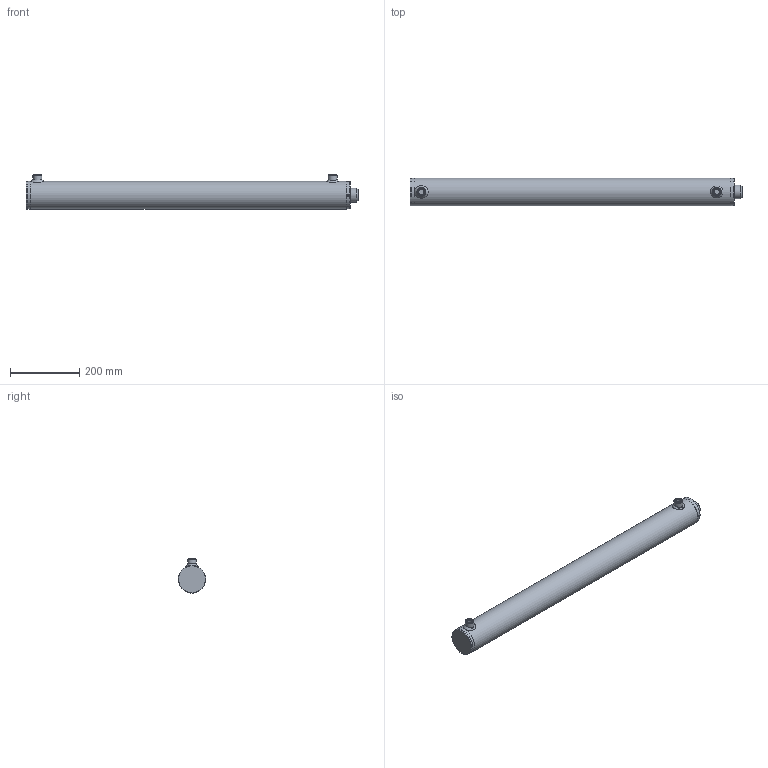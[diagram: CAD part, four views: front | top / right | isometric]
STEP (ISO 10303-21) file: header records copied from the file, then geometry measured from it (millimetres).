
FILE_DESCRIPTION( ( 'Unknown' ), '1' );
FILE_NAME( 'E:/LIBRERIA_3d/CILINDRI/HM0/HM04400800.stp', 'Unknown', ( 'Unknown' ), ( 'Unknown' ), 'PSStep 17.0.49', 'Unknown', ' ' );
FILE_SCHEMA( ( 'AUTOMOTIVE_DESIGN { 1 0 10303 214 1 1 1 1 }' ) );
Length unit declared in the file: millimetre
Products named in the file (18): CT00070027; CG08007040; STL4500800-oa4; Saldatura d'angolo 1-oa2; CBS0600000; FTM4500800-oa3; Assem1; Saldatura con preparazione 1-oa0; Saldatura d'angolo 1-oa1; CF00070080; CDB0002720; APG0600000; SBL4040800
Assembly tree (15 placements, depth 3):
  Saldatura d'angolo 1-oa2
  Saldatura d'angolo 1-oa2
  Assem1
    Saldatura con preparazione 1-oa0
    Saldatura con preparazione 1-oa0
    CF00070080
    CBS0600000
    CDB0002720
    APG0600000  x2
    SBL4040800
    CG08007040
      CG08007040
    CT00070027
      CT00070027
    STL4500800-oa4
      CBS0600000
      FTM4500800-oa3
  Saldatura d'angolo 1-oa1
  Saldatura d'angolo 1-oa1
Bounding box: 960 x 80 x 99 mm (x, y, z)
Volume: 2550461.2 mm3; surface area: 648695.7 mm2
Topology: 16 solids, 16 shells, 194 faces, 394 edges, 245 vertices
Faces by surface type: plane 58, cylinder 55, torus 37, cone 32, bspline 12
Full cylindrical faces by diameter (mm): 4.25 x1, 5 x2, 6 x2, 7 x2, 14.95 x2, 16 x2, 16.6 x2, 22 x2, 26 x2, 26.4 x1, 27 x5, 33.2 x1, 40 x4, 41 x1, 42 x1, 43 x1, 48.6 x1, 50 x2, 64.18 x2, 65 x1, 68.34 x2, 69.9 x1, 70 x1, 70.3 x1, 70.5 x1, 70.6 x1, 71 x1, 72 x3, 72.5 x1, 74 x1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
Entity records: 8848 total; most frequent: CARTESIAN_POINT 4237, DIRECTION 706, ORIENTED_EDGE 394, AXIS2_PLACEMENT_3D 341, EDGE_LOOP 340, FACE_OUTER_BOUND 274, EDGE_CURVE 197, VERTEX_POINT 188
